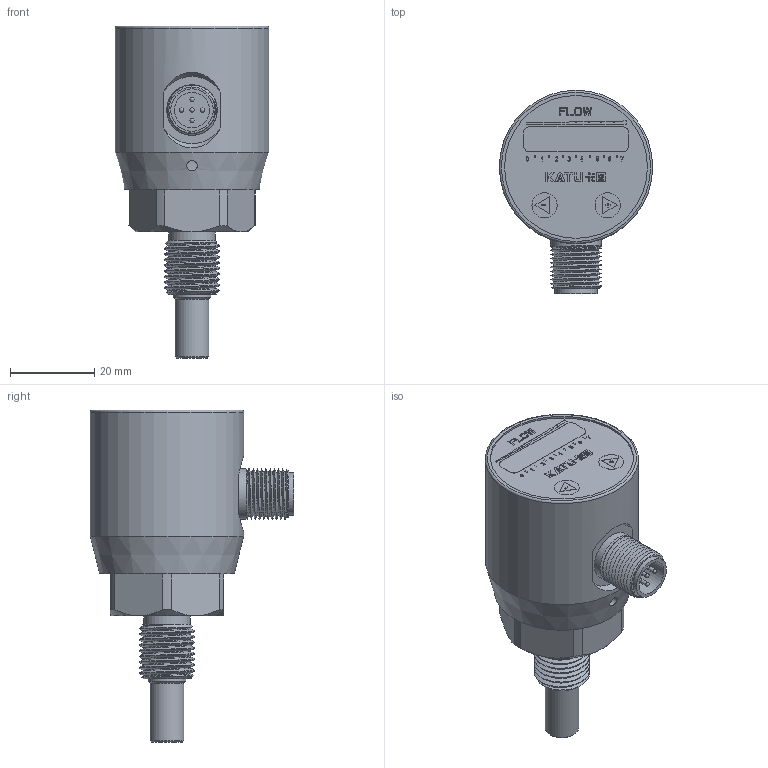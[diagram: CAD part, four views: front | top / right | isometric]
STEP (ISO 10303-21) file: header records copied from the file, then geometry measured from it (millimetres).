
FILE_DESCRIPTION( (''), '2;1');
FILE_NAME( 'QSKD_G1-4_L30.step', '2024-04-26T10:27:12+08:00', (''), (''), '', '', '');
FILE_SCHEMA (('AUTOMOTIVE_DESIGN { 1 0 10303 214 3 1 1 1 }'));
Length unit declared in the file: millimetre
Products named in the file (1): QSKD G1-4_L30
Bounding box: 36.5 x 48.4 x 79 mm (x, y, z)
Volume: 37736.9 mm3; surface area: 16999.4 mm2
Topology: 4 solids, 4 shells, 692 faces, 1842 edges, 1221 vertices
Faces by surface type: plane 584, cylinder 64, cone 18, bspline 14, sphere 11, torus 1
Full cylindrical faces by diameter (mm): 1 x10, 2.5 x1, 6 x2, 7.2 x1, 7.5 x1, 8 x1, 8.4 x1, 9 x1, 9.7 x1, 9.8 x1, 10.1 x1, 11 x2, 11.6 x2, 12 x1, 18 x1, 23 x3, 26.1 x5, 34 x1, 36.5 x1
Entity records: 24327 total; most frequent: CARTESIAN_POINT 7668, ORIENTED_EDGE 3450, DIRECTION 3153, EDGE_CURVE 1725, LINE 1531, VECTOR 1531, VERTEX_POINT 1174, EDGE_LOOP 823
